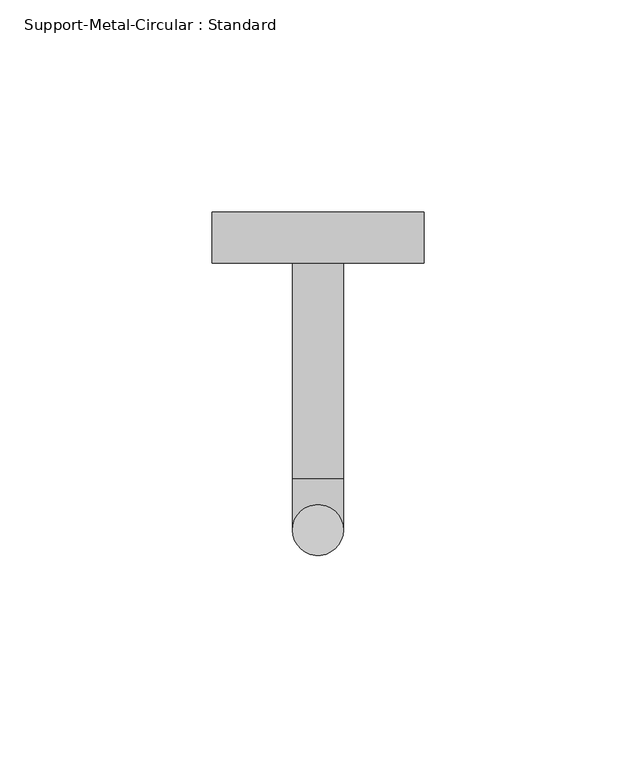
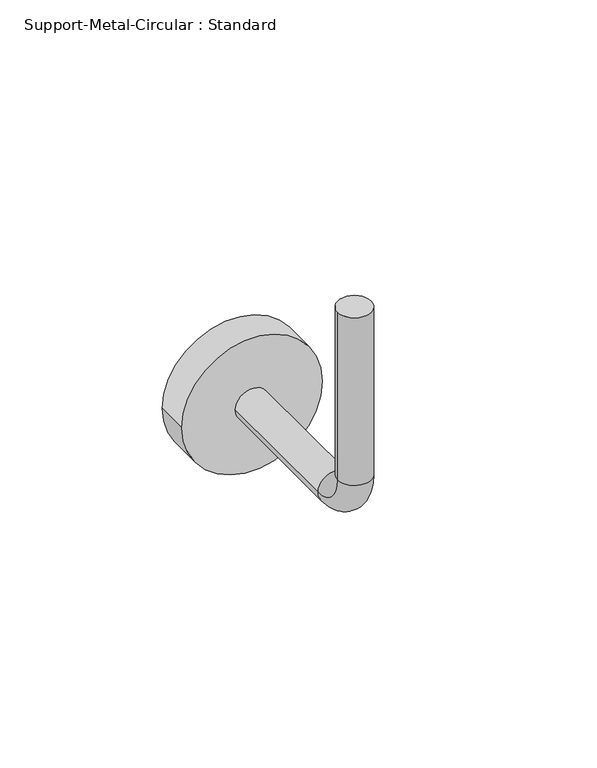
"""IFC4 building model written with IfcOpenShell, lengths in millimetres: proxy geometry, Support-Metal-Circular : Standard."""

from ifc_helpers import new_model, si_unit, point, frame, frame_2d, origin, origin_with_axes, place, context, project, spatial, circle_curve, ellipse_curve, trimmed, segment, composite_curve, outline, extrude, source, transform, mapped, element, save
from ifc_brep_helpers import plane_surface, cylinder_surface, revolved_surface, advanced_brep


def support_metal_circular_standard_a779fbb7(model_context):
    return source(origin(), model_context, "Body", "SolidModel", [
        advanced_brep(
        [(-6.0, 0.0, 0.0), (6.0, 0.0, 0.0), (-6.0, 0.0, -63.0), (6.0, 0.0, -63.0), (6.0, 12.0, -75.0), (-6.0, 12.0, -75.0), (-6.0, 63.0, -75.0), (6.0, 63.0, -75.0)],
        [
            (0, 1, circle_curve(origin_with_axes(), 6.0)),
            (1, 0, circle_curve(origin_with_axes(), 6.0)),
            (0, 2),
            (2, 3, circle_curve(frame((0.0, 0.0, -63.0), z_axis=(0.0, 0.0, 1.0), x_axis=(1.0, 0.0, 0.0)), 6.0)),
            (3, 1),
            (3, 2, circle_curve(frame((0.0, 0.0, -63.0), z_axis=(0.0, 0.0, 1.0), x_axis=(1.0, 0.0, 0.0)), 6.0)),
            (4, 3, circle_curve(frame((6.0, 12.0, -63.0), z_axis=(-1.0, 0.0, 0.0), x_axis=(0.0, -1.0, 0.0)), 12.0)),
            (2, 5, circle_curve(frame((-6.0, 12.0, -63.0), z_axis=(1.0, 0.0, 0.0), x_axis=(0.0, -1.0, 0.0)), 12.0)),
            (5, 4, circle_curve(frame((0.0, 12.0, -75.0), z_axis=(0.0, -1.0, 0.0), x_axis=(1.0, 0.0, 0.0)), 6.0)),
            (4, 5, circle_curve(frame((0.0, 12.0, -75.0), z_axis=(0.0, -1.0, 0.0), x_axis=(1.0, 0.0, 0.0)), 6.0)),
            (6, 7, circle_curve(frame((0.0, 63.0, -75.0), z_axis=(0.0, 1.0, 0.0), x_axis=(1.0, 0.0, 0.0)), 6.0)),
            (7, 6, circle_curve(frame((0.0, 63.0, -75.0), z_axis=(0.0, 1.0, 0.0), x_axis=(1.0, 0.0, 0.0)), 6.0)),
            (5, 6),
            (7, 4),
        ],
        [
            plane_surface(origin_with_axes()),
            cylinder_surface(origin_with_axes(), 6.0),
            revolved_surface(trimmed(ellipse_curve(frame((0.0, 0.0, -63.0), z_axis=(0.0, 0.0, 1.0), x_axis=(1.0, 0.0, 0.0)), 6.0, 6.0), [point((-6.0, 0.0, -63.0))], [point((6.0, 0.0, -63.0))], True, "CARTESIAN"), (0.0, 12.0, -63.0), (1.0, 0.0, 0.0)),
            revolved_surface(trimmed(ellipse_curve(frame((0.0, 0.0, -63.0), z_axis=(0.0, 0.0, 1.0), x_axis=(1.0, 0.0, 0.0)), 6.0, 6.0), [point((6.0, 0.0, -63.0))], [point((-6.0, 0.0, -63.0))], True, "CARTESIAN"), (0.0, 12.0, -63.0), (1.0, 0.0, 0.0)),
            plane_surface(frame((0.0, 63.0, -75.0), z_axis=(0.0, 1.0, 0.0), x_axis=(1.0, 0.0, 0.0))),
            cylinder_surface(frame((0.0, 12.0, -75.0), z_axis=(0.0, -1.0, 0.0), x_axis=(1.0, 0.0, 0.0)), 6.0),
        ],
        [
            (0, [[1, 2]]),
            (1, [[-1, 3, 4, 5]]),
            (1, [[-2, -5, 6, -3]]),
            (2, [[7, -4, 8, 9]]),
            (3, [[-8, -6, -7, 10]]),
            (4, [[11, 12]]),
            (5, [[-9, 13, -12, 14]]),
            (5, [[-10, -14, -11, -13]]),
        ],
    ),
        extrude(outline(composite_curve([segment(trimmed(circle_curve(frame_2d((-75.0, 0.0)), 25.0), [point((-75.0, -25.0))], [point((-75.0, 25.0))], False, "CARTESIAN"), True, "CONTINUOUS"), segment(trimmed(circle_curve(frame_2d((-75.0, 0.0)), 25.0), [point((-75.0, 25.0))], [point((-75.0, -25.0))], False, "CARTESIAN"), True, "CONTINUOUS")], self_intersect=False)), frame((0.0, 63.0, 0.0), z_axis=(0.0, 1.0, 0.0), x_axis=(0.0, 0.0, 1.0)), (0.0, 0.0, 1.0), 12.0),
    ])


if __name__ == "__main__":
    model = new_model("IFC4")
    model_context = context("Model", 3, world=origin())
    ifc_project = project(units=[si_unit("LENGTHUNIT", "METRE", prefix="MILLI")], contexts=[model_context])
    site = spatial("IfcSite", under=ifc_project)
    building = spatial("IfcBuilding", under=site)
    placement = place(None, origin())
    support_metal_circular_standard_shape = support_metal_circular_standard_a779fbb7(model_context)
    element("IfcBuildingElementProxy", 1, Name="Support-Metal-Circular : Standard", ObjectType="Support-Metal-Circular : Standard", at=placement, inside=building, context=model_context, shape_type="MappedRepresentation", body=[
        mapped(support_metal_circular_standard_shape, transform((0.0, 0.0, 0.0), x_axis=(1.0, 0.0, 0.0), y_axis=(0.0, 1.0, 0.0), z_axis=(0.0, 0.0, 1.0))),
    ])
    save(model, "model.ifc")
